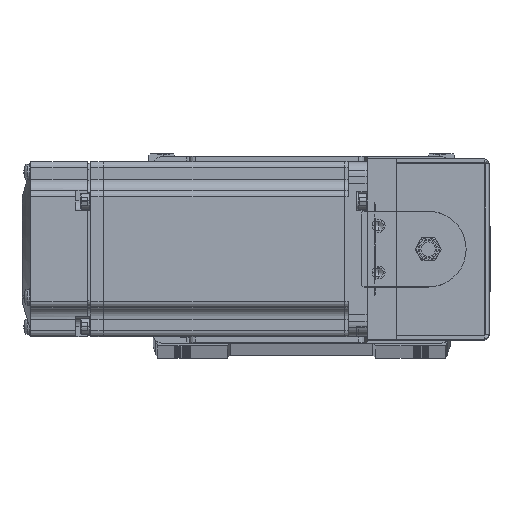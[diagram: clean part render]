
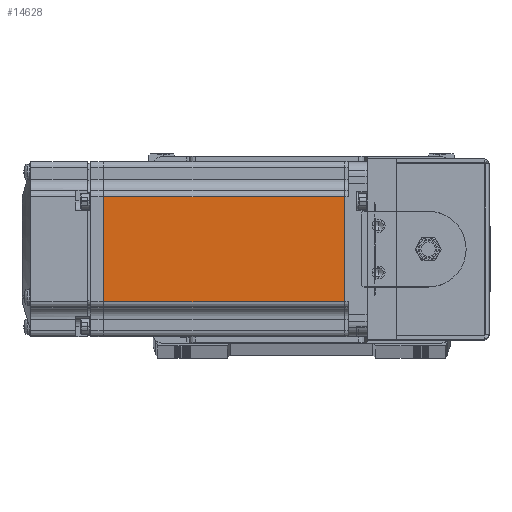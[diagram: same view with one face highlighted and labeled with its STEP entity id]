
A CAD part, top view. The second image highlights one B-rep face of the part: STEP entity #14628.
In plain terms, the highlighted planar face has unit normal (0, 0, 1) as drawn and (0, -1, 0) by its records, which use the part's own axes.
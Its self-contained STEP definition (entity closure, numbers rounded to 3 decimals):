
#185 = CARTESIAN_POINT ( 'NONE',  ( -6.5, -30., -18. ) ) ;
#967 = VERTEX_POINT ( 'NONE', #29644 ) ;
#1870 = LINE ( 'NONE', #6006, #6007 ) ;
#3505 = CARTESIAN_POINT ( 'NONE',  ( -7.75, -30., 18. ) ) ;
#3596 = VECTOR ( 'NONE', #13395, 1000. ) ;
#4803 = AXIS2_PLACEMENT_3D ( 'NONE', #4909, #38154, #17933 ) ;
#4909 = CARTESIAN_POINT ( 'NONE',  ( -6.5, -30., -25. ) ) ;
#5291 = ORIENTED_EDGE ( 'NONE', *, *, #5931, .F. ) ;
#5931 = EDGE_CURVE ( 'NONE', #17525, #967, #37009, .T. ) ;
#6006 = CARTESIAN_POINT ( 'NONE',  ( -7.75, -30., 0. ) ) ;
#6007 = VECTOR ( 'NONE', #51689, 1000. ) ;
#9518 = LINE ( 'NONE', #10031, #3596 ) ;
#10031 = CARTESIAN_POINT ( 'NONE',  ( -6.5, -30., 18. ) ) ;
#10116 = VERTEX_POINT ( 'NONE', #3505 ) ;
#10481 = EDGE_LOOP ( 'NONE', ( #21790, #24861, #10770, #5291 ) ) ;
#10770 = ORIENTED_EDGE ( 'NONE', *, *, #34639, .T. ) ;
#13395 = DIRECTION ( 'NONE',  ( -1., 0., 0. ) ) ;
#14628 = ADVANCED_FACE ( 'NONE', ( #50642 ), #38411, .T. ) ;
#17525 = VERTEX_POINT ( 'NONE', #24682 ) ;
#17933 = DIRECTION ( 'NONE',  ( 0., 0., -1. ) ) ;
#21790 = ORIENTED_EDGE ( 'NONE', *, *, #52307, .F. ) ;
#24682 = CARTESIAN_POINT ( 'NONE',  ( -7.75, -30., -18. ) ) ;
#24861 = ORIENTED_EDGE ( 'NONE', *, *, #39855, .T. ) ;
#25651 = DIRECTION ( 'NONE',  ( 0., 0., -1. ) ) ;
#29644 = CARTESIAN_POINT ( 'NONE',  ( -90.45, -30., -18. ) ) ;
#34639 = EDGE_CURVE ( 'NONE', #51332, #967, #46994, .T. ) ;
#37009 = LINE ( 'NONE', #185, #45660 ) ;
#38154 = DIRECTION ( 'NONE',  ( 0., -1., 0. ) ) ;
#38411 = PLANE ( 'NONE',  #4803 ) ;
#39855 = EDGE_CURVE ( 'NONE', #10116, #51332, #9518, .T. ) ;
#45660 = VECTOR ( 'NONE', #54139, 1000. ) ;
#46994 = LINE ( 'NONE', #54730, #47921 ) ;
#47921 = VECTOR ( 'NONE', #25651, 1000. ) ;
#50199 = CARTESIAN_POINT ( 'NONE',  ( -90.45, -30., 18. ) ) ;
#50642 = FACE_OUTER_BOUND ( 'NONE', #10481, .T. ) ;
#51332 = VERTEX_POINT ( 'NONE', #50199 ) ;
#51689 = DIRECTION ( 'NONE',  ( 0., 0., -1. ) ) ;
#52307 = EDGE_CURVE ( 'NONE', #10116, #17525, #1870, .T. ) ;
#54139 = DIRECTION ( 'NONE',  ( -1., 0., 0. ) ) ;
#54730 = CARTESIAN_POINT ( 'NONE',  ( -90.45, -30., 0. ) ) ;
